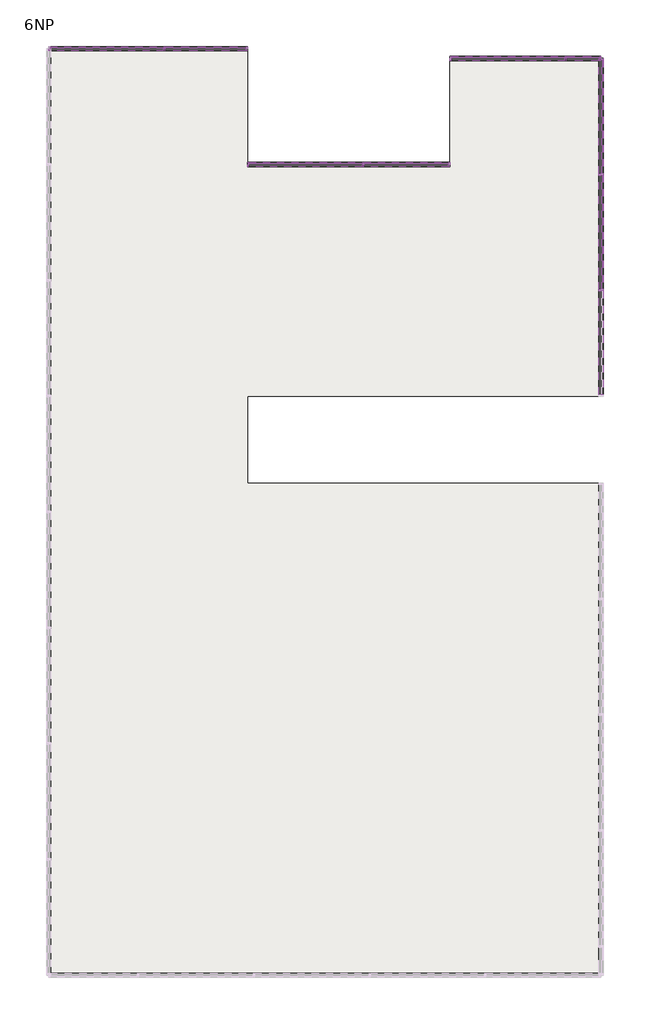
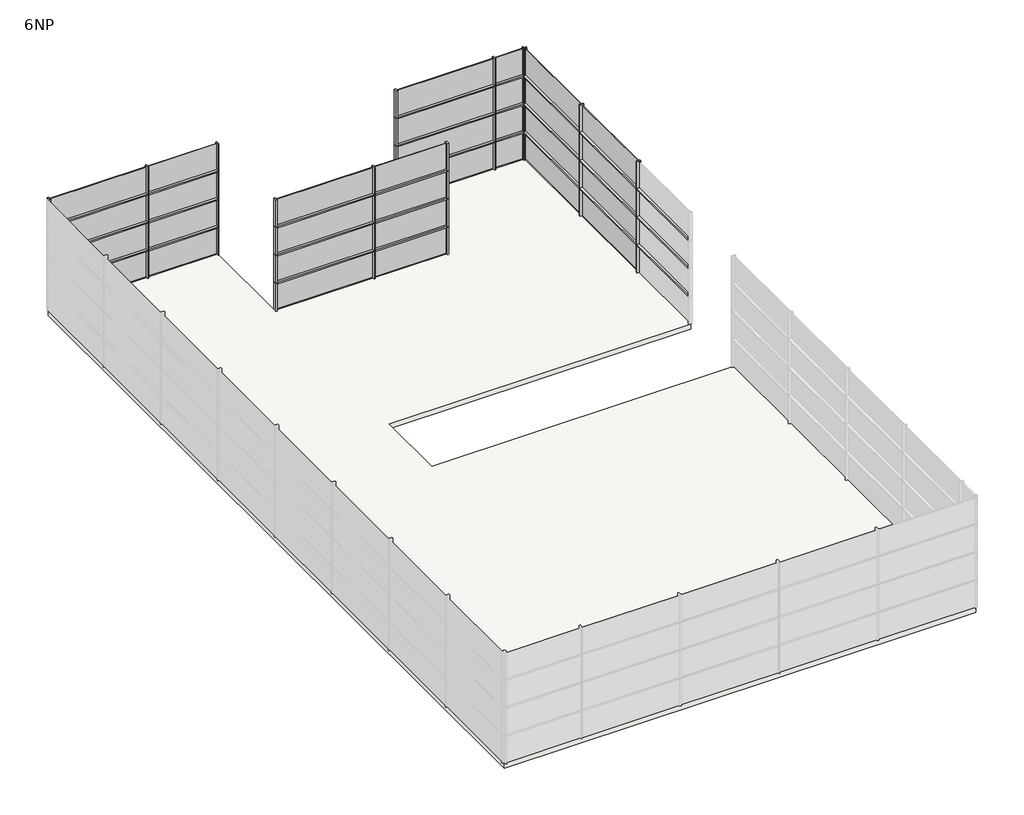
# One storey, part 3 of 3: 74 members, 32 plates, 1 slab.
"""IFC4 building model written with IfcOpenShell, lengths in millimetres."""

import ifcopenshell
import ifcopenshell.guid

model = None  # the IFC model being written
_history = None  # IfcOwnerHistory: only IFC2X3 demands one
_inside = {}  # id of a spatial element -> (the spatial element, [elements in it])
_under = {}  # id of a project, library or spatial element -> (it, [spatial elements below it])
_declared = {}  # id of a project -> (the project, [libraries it declares])
_typed = {}  # id of a type object -> (the type object, [elements of that type])
_made_of = {}  # id of a material, layer set ... -> (it, [elements and type objects made of it])


def new_model(schema):
    """Start an empty IFC model of exactly this schema.

    Asked for "IFC4X3", IfcOpenShell would pick the latest addendum, in which some entities
    have other attributes; the version numbers below select the first issue.
    IFC2X3 requires an IfcOwnerHistory on every rooted entity: one is made here for all.
    """
    global model, _history
    if schema == "IFC4X3":
        model = ifcopenshell.file(schema_version=(4, 3, 0, 0))
    else:
        model = ifcopenshell.file(schema=schema)
    _inside.clear()
    _under.clear()
    _declared.clear()
    _typed.clear()
    _made_of.clear()
    _history = None
    if model.schema == "IFC2X3":
        org = make("IfcOrganization", Name="unknown")
        user = make(
            "IfcPersonAndOrganization",
            ThePerson=make("IfcPerson", FamilyName="unknown"),
            TheOrganization=org,
        )
        app = make(
            "IfcApplication",
            ApplicationDeveloper=org,
            Version="unknown",
            ApplicationFullName="unknown",
            ApplicationIdentifier="unknown",
        )
        _history = make(
            "IfcOwnerHistory",
            OwningUser=user,
            OwningApplication=app,
            ChangeAction="ADDED",
            CreationDate=0,
        )
    return model


def make(cls, **values):
    """One entity of the class cls with the attributes given. An attribute that is None is left unset."""
    return model.create_entity(
        cls, **{name: value for name, value in values.items() if value is not None}
    )


def rooted(cls, **values):
    """An entity with a GlobalId (a new one), such as an element, a storey or a relation."""
    return make(cls, GlobalId=ifcopenshell.guid.new(), OwnerHistory=_history, **values)


def si_unit(unit_type, name, prefix=None):
    """IfcSIUnit, for example si_unit("LENGTHUNIT", "METRE", prefix="MILLI")."""
    return make("IfcSIUnit", UnitType=unit_type, Prefix=prefix, Name=name)


def assignment(units):
    """IfcUnitAssignment: the units of a project."""
    return None if units is None else make("IfcUnitAssignment", Units=units)


def point(xyz):
    """IfcCartesianPoint."""
    return None if xyz is None else make("IfcCartesianPoint", Coordinates=xyz)


def direction(xyz):
    """IfcDirection."""
    return None if xyz is None else make("IfcDirection", DirectionRatios=xyz)


def frame(location, z_axis=None, x_axis=None):
    """IfcAxis2Placement3D, a coordinate frame: its origin and axes. An axis left out is left unset."""
    return make(
        "IfcAxis2Placement3D",
        Location=point(location),
        Axis=direction(z_axis),
        RefDirection=direction(x_axis),
    )


def origin():
    """The frame at (0, 0, 0) with its axes left unset."""
    return frame((0.0, 0.0, 0.0))


def origin_with_axes():
    """The frame at (0, 0, 0) with the z axis (0, 0, 1) and the x axis (1, 0, 0) written out."""
    return frame((0.0, 0.0, 0.0), z_axis=(0.0, 0.0, 1.0), x_axis=(1.0, 0.0, 0.0))


def place(relative_to, where):
    """IfcLocalPlacement: puts the frame where relative to a parent placement (None: the world)."""
    return make(
        "IfcLocalPlacement", PlacementRelTo=relative_to, RelativePlacement=where
    )


def context(
    kind, dimensions, precision=None, world=None, true_north=None, identifier=None
):
    """IfcGeometricRepresentationContext, for example the 3D "Model" context."""
    return make(
        "IfcGeometricRepresentationContext",
        ContextIdentifier=identifier,
        ContextType=kind,
        CoordinateSpaceDimension=dimensions,
        Precision=precision,
        WorldCoordinateSystem=world,
        TrueNorth=true_north,
    )


def project(units=None, contexts=None):
    """IfcProject with its units and contexts."""
    return rooted(
        "IfcProject",
        Name="project",
        RepresentationContexts=contexts,
        UnitsInContext=assignment(units),
    )


def spatial(cls, under=None, at=None, **own):
    """A site, building, storey or space (cls), placed at a placement, below another one or the project."""
    s = rooted(cls, ObjectPlacement=at, **own)
    if under is not None:
        _under.setdefault(under.id(), (under, []))[1].append(s)
    return s


def polyline(points):
    """IfcPolyline through the points."""
    return make("IfcPolyline", Points=[point(p) for p in points])


def outline(outer, holes=None, kind="AREA"):
    """IfcArbitraryClosedProfileDef: a profile drawn as a closed curve; with holes, ...WithVoids."""
    if holes is None:
        return make("IfcArbitraryClosedProfileDef", ProfileType=kind, OuterCurve=outer)
    return make(
        "IfcArbitraryProfileDefWithVoids",
        ProfileType=kind,
        OuterCurve=outer,
        InnerCurves=holes,
    )


def extrude(swept, where, along, depth):
    """IfcExtrudedAreaSolid: the profile swept, set in the frame where, extruded along a direction by depth."""
    return make(
        "IfcExtrudedAreaSolid",
        SweptArea=swept,
        Position=where,
        ExtrudedDirection=direction(along),
        Depth=depth,
    )


def shape(context_of_items, identifier, shape_type, items):
    """IfcShapeRepresentation: the items that make up one representation, for example the "Body"."""
    return make(
        "IfcShapeRepresentation",
        ContextOfItems=context_of_items,
        RepresentationIdentifier=identifier,
        RepresentationType=shape_type,
        Items=items,
    )


def source(mapping_origin, context_of_items, identifier, shape_type, items):
    """IfcRepresentationMap: a shape defined once, which mapped items show again and again."""
    return make(
        "IfcRepresentationMap",
        MappingOrigin=mapping_origin,
        MappedRepresentation=shape(context_of_items, identifier, shape_type, items),
    )


def transform(
    local_origin,
    x_axis=None,
    y_axis=None,
    z_axis=None,
    scale=None,
    scale2=None,
    scale3=None,
    uniform=True,
):
    """IfcCartesianTransformationOperator3D, or its non-uniform kind. x_axis, y_axis, z_axis: its Axis1, 2, 3."""
    if uniform:
        return make(
            "IfcCartesianTransformationOperator3D",
            Axis1=direction(x_axis),
            Axis2=direction(y_axis),
            LocalOrigin=point(local_origin),
            Scale=scale,
            Axis3=direction(z_axis),
        )
    return make(
        "IfcCartesianTransformationOperator3DnonUniform",
        Axis1=direction(x_axis),
        Axis2=direction(y_axis),
        LocalOrigin=point(local_origin),
        Scale=scale,
        Axis3=direction(z_axis),
        Scale2=scale2,
        Scale3=scale3,
    )


def mapped(mapping_source, mapping_target):
    """IfcMappedItem: shows the shape of a source again, moved by a transform."""
    return make(
        "IfcMappedItem", MappingSource=mapping_source, MappingTarget=mapping_target
    )


def made_of(thing, what):
    """Note that an element or type object is made of a material, layer set ...; save() writes the relation."""
    if what is not None:
        _made_of.setdefault(what.id(), (what, []))[1].append(thing)
    return thing


def element(
    cls,
    number,
    at=None,
    inside=None,
    cuts=None,
    type_object=None,
    material=None,
    context=None,
    identifier="Body",
    shape_type=None,
    held_by="IfcProductDefinitionShape",
    body=None,
    shapes=None,
    **own,
):
    """One element of the class cls, such as IfcWall. Its Tag is "e" and its number.

    at: its placement. inside: the storey or other place that contains it. cuts: it is an
    opening in that element (IfcRelVoidsElement). A single representation is given by context,
    identifier, shape_type and body (its items); several are given by shapes. held_by: the class
    of the entity that holds the representations. save() writes the other relations.
    """
    e = rooted(cls, Tag="e%d" % number, ObjectPlacement=at, **own)
    if body is not None:
        shapes = [shape(context, identifier, shape_type, body)]
    if shapes is not None:
        e.Representation = make(held_by, Representations=shapes)
    if inside is not None:
        _inside.setdefault(inside.id(), (inside, []))[1].append(e)
    if cuts is not None:
        rooted(
            "IfcRelVoidsElement", RelatingBuildingElement=cuts, RelatedOpeningElement=e
        )
    if type_object is not None:
        _typed.setdefault(type_object.id(), (type_object, []))[1].append(e)
    return made_of(e, material)


def aggregate(whole, parts):
    """IfcRelAggregates: a whole, such as a stair, and the parts it consists of."""
    return rooted("IfcRelAggregates", RelatingObject=whole, RelatedObjects=parts)


def save(model, path):
    """Write the relations noted so far, then the file.

    IfcRelAggregates (storeys below a building ...), IfcRelContainedInSpatialStructure (elements
    in a storey), IfcRelDefinesByType, IfcRelAssociatesMaterial and IfcRelDeclares: one each for
    every whole, place, type object, material and project.
    """
    for whole, parts in _under.values():
        aggregate(whole, parts)
    for where, things in _inside.values():
        rooted(
            "IfcRelContainedInSpatialStructure",
            RelatedElements=things,
            RelatingStructure=where,
        )
    for kind, things in _typed.values():
        rooted("IfcRelDefinesByType", RelatedObjects=things, RelatingType=kind)
    for what, things in _made_of.values():
        rooted("IfcRelAssociatesMaterial", RelatedObjects=things, RelatingMaterial=what)
    for by, libraries in _declared.values():
        rooted("IfcRelDeclares", RelatingContext=by, RelatedDefinitions=libraries)
    model.write(path)


def rectangular_mullion_50_x_150mm_d99dc9be(model_context):
    return source(origin(), model_context, "Body", "SweptSolid", [
        extrude(outline(polyline([(25.0, 75.0), (25.0, -75.0), (-25.0, -75.0), (-25.0, 75.0), (25.0, 75.0)])), frame((0.0, 0.0, -1200.0), z_axis=(0.0, 0.0, 1.0), x_axis=(1.0, 0.0, 0.0)), (0.0, 0.0, 1.0), 1200.0),
    ])


def rectangular_mullion_50_x_150mm_6588f46c(model_context):
    return source(origin(), model_context, "Body", "SweptSolid", [
        extrude(outline(polyline([(0.0, 75.0), (0.0, -75.0), (-50.0, -75.0), (-50.0, 75.0), (0.0, 75.0)])), frame((0.0, 0.0, -1200.0), z_axis=(0.0, 0.0, 1.0), x_axis=(1.0, 0.0, 0.0)), (0.0, 0.0, 1.0), 1200.0),
    ])


def rectangular_mullion_50_x_150mm_3fe1b35e(model_context):
    return source(origin(), model_context, "Body", "SweptSolid", [
        extrude(outline(polyline([(25.0, 75.0), (25.0, -75.0), (-25.0, -75.0), (-25.0, 75.0), (25.0, 75.0)])), frame((0.0, 0.0, -3588.3715849), z_axis=(0.0, 0.0, 1.0), x_axis=(1.0, 0.0, 0.0)), (0.0, 0.0, 1.0), 3588.3715849),
    ])


def rectangular_mullion_50_x_150mm_a037c29c(model_context):
    return source(origin(), model_context, "Body", "SweptSolid", [
        extrude(outline(polyline([(25.0, 75.0), (25.0, -75.0), (-25.0, -75.0), (-25.0, 75.0), (25.0, 75.0)])), frame((0.0, 0.0, -3950.0), z_axis=(0.0, 0.0, 1.0), x_axis=(1.0, 0.0, 0.0)), (0.0, 0.0, 1.0), 3950.0),
    ])


def rectangular_mullion_50_x_150mm_c2546fd4(model_context):
    return source(origin(), model_context, "Body", "SweptSolid", [
        extrude(outline(polyline([(25.0, 75.0), (25.0, -75.0), (-25.0, -75.0), (-25.0, 75.0), (25.0, 75.0)])), frame((0.0, 0.0, -3925.0), z_axis=(0.0, 0.0, 1.0), x_axis=(1.0, 0.0, 0.0)), (0.0, 0.0, 1.0), 3925.0),
    ])


def rectangular_mullion_50_x_150mm_568dda71(model_context):
    return source(origin(), model_context, "Body", "SweptSolid", [
        extrude(outline(polyline([(25.0, 75.0), (25.0, -75.0), (-25.0, -75.0), (-25.0, 75.0), (25.0, 75.0)])), frame((0.0, 0.0, -1173.2453384), z_axis=(0.0, 0.0, 1.0), x_axis=(1.0, 0.0, 0.0)), (0.0, 0.0, 1.0), 1173.2453384),
    ])


def rectangular_mullion_50_x_150mm_268a5786(model_context):
    return source(origin(), model_context, "Body", "SweptSolid", [
        extrude(outline(polyline([(0.0, 75.0), (0.0, -75.0), (-50.0, -75.0), (-50.0, 75.0), (0.0, 75.0)])), frame((0.0, 0.0, -1173.2453384), z_axis=(0.0, 0.0, 1.0), x_axis=(1.0, 0.0, 0.0)), (0.0, 0.0, 1.0), 1173.2453384),
    ])


def rectangular_mullion_50_x_150mm_8b4cb4b7(model_context):
    return source(origin(), model_context, "Body", "SweptSolid", [
        extrude(outline(polyline([(25.0, 75.0), (25.0, -75.0), (-25.0, -75.0), (-25.0, 75.0), (25.0, 75.0)])), frame((0.0, 0.0, -2790.592625), z_axis=(0.0, 0.0, 1.0), x_axis=(1.0, 0.0, 0.0)), (0.0, 0.0, 1.0), 2790.592625),
    ])


def rectangular_mullion_50_x_150mm_185cfd49(model_context):
    return source(origin(), model_context, "Body", "SweptSolid", [
        extrude(outline(polyline([(25.0, 75.0), (25.0, -75.0), (-25.0, -75.0), (-25.0, 75.0), (25.0, 75.0)])), frame((0.0, 0.0, -2925.0), z_axis=(0.0, 0.0, 1.0), x_axis=(1.0, 0.0, 0.0)), (0.0, 0.0, 1.0), 2925.0),
    ])


def rectangular_mullion_50_x_150mm_2fe63767(model_context):
    return source(origin(), model_context, "Body", "SweptSolid", [
        extrude(outline(polyline([(25.0, 75.0), (25.0, -75.0), (-25.0, -75.0), (-25.0, 75.0), (25.0, 75.0)])), frame((0.0, 0.0, -1149.8468786), z_axis=(0.0, 0.0, 1.0), x_axis=(1.0, 0.0, 0.0)), (0.0, 0.0, 1.0), 1149.8468786),
    ])


def system_panel_glazed_8e9402eb(model_context):
    return source(origin(), model_context, "Body", "SweptSolid", [
        extrude(outline(polyline([(1962.5, 24.5), (-1962.5, 24.5), (-1962.5, 49.5), (1962.5, 49.5), (1962.5, 24.5)])), origin_with_axes(), (0.0, 0.0, 1.0), 1150.0),
    ])


def system_panel_glazed_89ac83a7(model_context):
    return source(origin(), model_context, "Body", "SweptSolid", [
        extrude(outline(polyline([(1975.0, 24.5), (-1975.0, 24.5), (-1975.0, 49.5), (1975.0, 49.5), (1975.0, 24.5)])), origin_with_axes(), (0.0, 0.0, 1.0), 1150.0),
    ])


def system_panel_glazed_cf4d7c03(model_context):
    return source(origin(), model_context, "Body", "SweptSolid", [
        extrude(outline(polyline([(1962.5, 24.5), (-1962.5, 24.5), (-1962.5, 49.5), (1962.5, 49.5), (1962.5, 24.5)])), origin_with_axes(), (0.0, 0.0, 1.0), 1098.2453384),
    ])


def system_panel_glazed_7b3729bb(model_context):
    return source(origin(), model_context, "Body", "SweptSolid", [
        extrude(outline(polyline([(1975.0, 24.5), (-1975.0, 24.5), (-1975.0, 49.5), (1975.0, 49.5), (1975.0, 24.5)])), origin_with_axes(), (0.0, 0.0, 1.0), 1098.2453384),
    ])


def system_panel_glazed_e890f31e(model_context):
    return source(origin(), model_context, "Body", "SweptSolid", [
        extrude(outline(polyline([(1395.2963125, 24.5), (-1395.2963125, 24.5), (-1395.2963125, 49.5), (1395.2963125, 49.5), (1395.2963125, 24.5)])), origin_with_axes(), (0.0, 0.0, 1.0), 1150.0),
    ])


def system_panel_glazed_569c36ed(model_context):
    return source(origin(), model_context, "Body", "SweptSolid", [
        extrude(outline(polyline([(1395.2963125, 24.5), (-1395.2963125, 24.5), (-1395.2963125, 49.5), (1395.2963125, 49.5), (1395.2963125, 24.5)])), origin_with_axes(), (0.0, 0.0, 1.0), 1098.2453384),
    ])


def system_panel_glazed_e3e91f99(model_context):
    return source(origin(), model_context, "Body", "SweptSolid", [
        extrude(outline(polyline([(1462.5, 24.5), (-1462.5, 24.5), (-1462.5, 49.5), (1462.5, 49.5), (1462.5, 24.5)])), origin_with_axes(), (0.0, 0.0, 1.0), 1150.0),
    ])


def system_panel_glazed_42406b18(model_context):
    return source(origin(), model_context, "Body", "SweptSolid", [
        extrude(outline(polyline([(1462.5, 24.5), (-1462.5, 24.5), (-1462.5, 49.5), (1462.5, 49.5), (1462.5, 24.5)])), origin_with_axes(), (0.0, 0.0, 1.0), 1098.2453384),
    ])


def system_panel_glazed_39d17f19(model_context):
    return source(origin(), model_context, "Body", "SweptSolid", [
        extrude(outline(polyline([(574.9234393, 24.5), (-574.9234393, 24.5), (-574.9234393, 49.5), (574.9234393, 49.5), (574.9234393, 24.5)])), origin_with_axes(), (0.0, 0.0, 1.0), 1150.0),
    ])


def system_panel_glazed_61ef3558(model_context):
    return source(origin(), model_context, "Body", "SweptSolid", [
        extrude(outline(polyline([(574.9234393, 24.5), (-574.9234393, 24.5), (-574.9234393, 49.5), (574.9234393, 49.5), (574.9234393, 24.5)])), origin_with_axes(), (0.0, 0.0, 1.0), 1098.2453384),
    ])


model = new_model("IFC4")

# Units and contexts
model_context = context("Model", 3, world=origin())
ifc_project = project(units=[si_unit("LENGTHUNIT", "METRE", prefix="MILLI")], contexts=[model_context])

# Site, building, storey
site = spatial("IfcSite", under=ifc_project)
building = spatial("IfcBuilding", under=site)
storey = spatial("IfcBuildingStorey", under=building, Name="6NP", Elevation=24000.0)

# Members
placement = place(None, origin())
rectangular_mullion_50_x_150mm_shape = rectangular_mullion_50_x_150mm_d99dc9be(model_context)
element("IfcMember", 1, ObjectType="Rectangular Mullion : 50 x 150mm", at=placement, inside=storey, context=model_context, shape_type="MappedRepresentation", body=[
    mapped(rectangular_mullion_50_x_150mm_shape, transform((13503.2660975, 39.3555415, 27600.0), x_axis=(0.0, -1.0, 0.0), y_axis=(1.0, 0.0, 0.0), z_axis=(0.0, 0.0, 1.0))),
])
element("IfcMember", 2, ObjectType="Rectangular Mullion : 50 x 150mm", at=placement, inside=storey, context=model_context, shape_type="MappedRepresentation", body=[
    mapped(rectangular_mullion_50_x_150mm_shape, transform((13503.2660975, 39.3555415, 26400.0), x_axis=(0.0, -1.0, 0.0), y_axis=(1.0, 0.0, 0.0), z_axis=(0.0, 0.0, 1.0))),
])
element("IfcMember", 3, ObjectType="Rectangular Mullion : 50 x 150mm", at=placement, inside=storey, context=model_context, shape_type="MappedRepresentation", body=[
    mapped(rectangular_mullion_50_x_150mm_shape, transform((13503.2660975, 39.3555415, 25200.0), x_axis=(0.0, -1.0, 0.0), y_axis=(1.0, 0.0, 0.0), z_axis=(0.0, 0.0, 1.0))),
])
element("IfcMember", 4, ObjectType="Rectangular Mullion : 50 x 150mm", at=placement, inside=storey, context=model_context, shape_type="MappedRepresentation", body=[
    mapped(rectangular_mullion_50_x_150mm_shape, transform((13503.2660975, 4039.3555415, 27600.0), x_axis=(0.0, -1.0, 0.0), y_axis=(1.0, 0.0, 0.0), z_axis=(0.0, 0.0, 1.0))),
])
element("IfcMember", 5, ObjectType="Rectangular Mullion : 50 x 150mm", at=placement, inside=storey, context=model_context, shape_type="MappedRepresentation", body=[
    mapped(rectangular_mullion_50_x_150mm_shape, transform((13503.2660975, 4039.3555415, 26400.0), x_axis=(0.0, -1.0, 0.0), y_axis=(1.0, 0.0, 0.0), z_axis=(0.0, 0.0, 1.0))),
])
element("IfcMember", 6, ObjectType="Rectangular Mullion : 50 x 150mm", at=placement, inside=storey, context=model_context, shape_type="MappedRepresentation", body=[
    mapped(rectangular_mullion_50_x_150mm_shape, transform((13503.2660975, 4039.3555415, 25200.0), x_axis=(0.0, -1.0, 0.0), y_axis=(1.0, 0.0, 0.0), z_axis=(0.0, 0.0, 1.0))),
])
element("IfcMember", 7, ObjectType="Rectangular Mullion : 50 x 150mm", at=placement, inside=storey, context=model_context, shape_type="MappedRepresentation", body=[
    mapped(rectangular_mullion_50_x_150mm_shape, transform((-1587.173406, 8375.9839566, 25200.0), x_axis=(1.0, 0.0, 0.0), y_axis=(0.0, 1.0, 0.0), z_axis=(0.0, 0.0, 1.0))),
])
element("IfcMember", 8, ObjectType="Rectangular Mullion : 50 x 150mm", at=placement, inside=storey, context=model_context, shape_type="MappedRepresentation", body=[
    mapped(rectangular_mullion_50_x_150mm_shape, transform((-1587.173406, 8375.9839566, 26400.0), x_axis=(1.0, 0.0, 0.0), y_axis=(0.0, 1.0, 0.0), z_axis=(0.0, 0.0, 1.0))),
])
element("IfcMember", 9, ObjectType="Rectangular Mullion : 50 x 150mm", at=placement, inside=storey, context=model_context, shape_type="MappedRepresentation", body=[
    mapped(rectangular_mullion_50_x_150mm_shape, transform((-1587.173406, 8375.9839566, 27600.0), x_axis=(1.0, 0.0, 0.0), y_axis=(0.0, 1.0, 0.0), z_axis=(0.0, 0.0, 1.0))),
])
element("IfcMember", 10, ObjectType="Rectangular Mullion : 50 x 150mm", at=placement, inside=storey, context=model_context, shape_type="MappedRepresentation", body=[
    mapped(rectangular_mullion_50_x_150mm_shape, transform((5278.419219, 4375.9839566, 25200.0), x_axis=(1.0, 0.0, 0.0), y_axis=(0.0, 1.0, 0.0), z_axis=(0.0, 0.0, 1.0))),
])
element("IfcMember", 11, ObjectType="Rectangular Mullion : 50 x 150mm", at=placement, inside=storey, context=model_context, shape_type="MappedRepresentation", body=[
    mapped(rectangular_mullion_50_x_150mm_shape, transform((5278.419219, 4375.9839566, 26400.0), x_axis=(1.0, 0.0, 0.0), y_axis=(0.0, 1.0, 0.0), z_axis=(0.0, 0.0, 1.0))),
])
element("IfcMember", 12, ObjectType="Rectangular Mullion : 50 x 150mm", at=placement, inside=storey, context=model_context, shape_type="MappedRepresentation", body=[
    mapped(rectangular_mullion_50_x_150mm_shape, transform((5278.419219, 4375.9839566, 27600.0), x_axis=(1.0, 0.0, 0.0), y_axis=(0.0, 1.0, 0.0), z_axis=(0.0, 0.0, 1.0))),
])
element("IfcMember", 13, ObjectType="Rectangular Mullion : 50 x 150mm", at=placement, inside=storey, context=model_context, shape_type="MappedRepresentation", body=[
    mapped(rectangular_mullion_50_x_150mm_shape, transform((12278.419219, 8039.3555415, 25200.0), x_axis=(1.0, 0.0, 0.0), y_axis=(0.0, 1.0, 0.0), z_axis=(0.0, 0.0, 1.0))),
])
element("IfcMember", 14, ObjectType="Rectangular Mullion : 50 x 150mm", at=placement, inside=storey, context=model_context, shape_type="MappedRepresentation", body=[
    mapped(rectangular_mullion_50_x_150mm_shape, transform((12278.419219, 8039.3555415, 26400.0), x_axis=(1.0, 0.0, 0.0), y_axis=(0.0, 1.0, 0.0), z_axis=(0.0, 0.0, 1.0))),
])
element("IfcMember", 15, ObjectType="Rectangular Mullion : 50 x 150mm", at=placement, inside=storey, context=model_context, shape_type="MappedRepresentation", body=[
    mapped(rectangular_mullion_50_x_150mm_shape, transform((12278.419219, 8039.3555415, 27600.0), x_axis=(1.0, 0.0, 0.0), y_axis=(0.0, 1.0, 0.0), z_axis=(0.0, 0.0, 1.0))),
])
rectangular_mullion_50_x_150mm_2_shape = rectangular_mullion_50_x_150mm_6588f46c(model_context)
element("IfcMember", 16, ObjectType="Rectangular Mullion : 50 x 150mm", at=placement, inside=storey, context=model_context, shape_type="MappedRepresentation", body=[
    mapped(rectangular_mullion_50_x_150mm_2_shape, transform((1278.419219, 8375.9839566, 25200.0), x_axis=(1.0, 0.0, 0.0), y_axis=(0.0, 1.0, 0.0), z_axis=(0.0, 0.0, 1.0))),
])
element("IfcMember", 17, ObjectType="Rectangular Mullion : 50 x 150mm", at=placement, inside=storey, context=model_context, shape_type="MappedRepresentation", body=[
    mapped(rectangular_mullion_50_x_150mm_2_shape, transform((1278.419219, 8375.9839566, 26400.0), x_axis=(1.0, 0.0, 0.0), y_axis=(0.0, 1.0, 0.0), z_axis=(0.0, 0.0, 1.0))),
])
element("IfcMember", 18, ObjectType="Rectangular Mullion : 50 x 150mm", at=placement, inside=storey, context=model_context, shape_type="MappedRepresentation", body=[
    mapped(rectangular_mullion_50_x_150mm_2_shape, transform((1278.419219, 8375.9839566, 27600.0), x_axis=(1.0, 0.0, 0.0), y_axis=(0.0, 1.0, 0.0), z_axis=(0.0, 0.0, 1.0))),
])
element("IfcMember", 19, ObjectType="Rectangular Mullion : 50 x 150mm", at=placement, inside=storey, context=model_context, shape_type="MappedRepresentation", body=[
    mapped(rectangular_mullion_50_x_150mm_2_shape, transform((8278.419219, 4375.9839566, 25200.0), x_axis=(1.0, 0.0, 0.0), y_axis=(0.0, 1.0, 0.0), z_axis=(0.0, 0.0, 1.0))),
])
element("IfcMember", 20, ObjectType="Rectangular Mullion : 50 x 150mm", at=placement, inside=storey, context=model_context, shape_type="MappedRepresentation", body=[
    mapped(rectangular_mullion_50_x_150mm_2_shape, transform((8278.419219, 4375.9839566, 26400.0), x_axis=(1.0, 0.0, 0.0), y_axis=(0.0, 1.0, 0.0), z_axis=(0.0, 0.0, 1.0))),
])
element("IfcMember", 21, ObjectType="Rectangular Mullion : 50 x 150mm", at=placement, inside=storey, context=model_context, shape_type="MappedRepresentation", body=[
    mapped(rectangular_mullion_50_x_150mm_2_shape, transform((8278.419219, 4375.9839566, 27600.0), x_axis=(1.0, 0.0, 0.0), y_axis=(0.0, 1.0, 0.0), z_axis=(0.0, 0.0, 1.0))),
])
element("IfcMember", 22, ObjectType="Rectangular Mullion : 50 x 150mm", at=placement, inside=storey, context=model_context, shape_type="MappedRepresentation", body=[
    mapped(rectangular_mullion_50_x_150mm_2_shape, transform((13503.2660975, 8039.3555415, 25200.0), x_axis=(1.0, 0.0, 0.0), y_axis=(0.0, 1.0, 0.0), z_axis=(0.0, 0.0, 1.0))),
])
element("IfcMember", 23, ObjectType="Rectangular Mullion : 50 x 150mm", at=placement, inside=storey, context=model_context, shape_type="MappedRepresentation", body=[
    mapped(rectangular_mullion_50_x_150mm_2_shape, transform((13503.2660975, 8039.3555415, 26400.0), x_axis=(1.0, 0.0, 0.0), y_axis=(0.0, 1.0, 0.0), z_axis=(0.0, 0.0, 1.0))),
])
element("IfcMember", 24, ObjectType="Rectangular Mullion : 50 x 150mm", at=placement, inside=storey, context=model_context, shape_type="MappedRepresentation", body=[
    mapped(rectangular_mullion_50_x_150mm_2_shape, transform((13503.2660975, 8039.3555415, 27600.0), x_axis=(1.0, 0.0, 0.0), y_axis=(0.0, 1.0, 0.0), z_axis=(0.0, 0.0, 1.0))),
])
rectangular_mullion_50_x_150mm_3_shape = rectangular_mullion_50_x_150mm_3fe1b35e(model_context)
element("IfcMember", 25, ObjectType="Rectangular Mullion : 50 x 150mm", at=placement, inside=storey, context=model_context, shape_type="MappedRepresentation", body=[
    mapped(rectangular_mullion_50_x_150mm_3_shape, transform((13503.2660975, 14.3555415, 27600.0), x_axis=(0.0, 0.0, 1.0), y_axis=(1.0, 0.0, 0.0), z_axis=(0.0, 1.0, 0.0))),
])
element("IfcMember", 26, ObjectType="Rectangular Mullion : 50 x 150mm", at=placement, inside=storey, context=model_context, shape_type="MappedRepresentation", body=[
    mapped(rectangular_mullion_50_x_150mm_3_shape, transform((13503.2660975, 14.3555415, 26400.0), x_axis=(0.0, 0.0, 1.0), y_axis=(1.0, 0.0, 0.0), z_axis=(0.0, 1.0, 0.0))),
])
element("IfcMember", 27, ObjectType="Rectangular Mullion : 50 x 150mm", at=placement, inside=storey, context=model_context, shape_type="MappedRepresentation", body=[
    mapped(rectangular_mullion_50_x_150mm_3_shape, transform((13503.2660975, 14.3555415, 25200.0), x_axis=(0.0, 0.0, 1.0), y_axis=(1.0, 0.0, 0.0), z_axis=(0.0, 1.0, 0.0))),
])
rectangular_mullion_50_x_150mm_4_shape = rectangular_mullion_50_x_150mm_a037c29c(model_context)
element("IfcMember", 28, ObjectType="Rectangular Mullion : 50 x 150mm", at=placement, inside=storey, context=model_context, shape_type="MappedRepresentation", body=[
    mapped(rectangular_mullion_50_x_150mm_4_shape, transform((13503.2660975, 4014.3555415, 27600.0), x_axis=(0.0, 0.0, 1.0), y_axis=(1.0, 0.0, 0.0), z_axis=(0.0, 1.0, 0.0))),
])
element("IfcMember", 29, ObjectType="Rectangular Mullion : 50 x 150mm", at=placement, inside=storey, context=model_context, shape_type="MappedRepresentation", body=[
    mapped(rectangular_mullion_50_x_150mm_4_shape, transform((13503.2660975, 4014.3555415, 26400.0), x_axis=(0.0, 0.0, 1.0), y_axis=(1.0, 0.0, 0.0), z_axis=(0.0, 1.0, 0.0))),
])
element("IfcMember", 30, ObjectType="Rectangular Mullion : 50 x 150mm", at=placement, inside=storey, context=model_context, shape_type="MappedRepresentation", body=[
    mapped(rectangular_mullion_50_x_150mm_4_shape, transform((13503.2660975, 4014.3555415, 25200.0), x_axis=(0.0, 0.0, 1.0), y_axis=(1.0, 0.0, 0.0), z_axis=(0.0, 1.0, 0.0))),
])
rectangular_mullion_50_x_150mm_5_shape = rectangular_mullion_50_x_150mm_c2546fd4(model_context)
element("IfcMember", 31, ObjectType="Rectangular Mullion : 50 x 150mm", at=placement, inside=storey, context=model_context, shape_type="MappedRepresentation", body=[
    mapped(rectangular_mullion_50_x_150mm_5_shape, transform((13503.2660975, 7989.3555415, 27600.0), x_axis=(0.0, 0.0, 1.0), y_axis=(1.0, 0.0, 0.0), z_axis=(0.0, 1.0, 0.0))),
])
element("IfcMember", 32, ObjectType="Rectangular Mullion : 50 x 150mm", at=placement, inside=storey, context=model_context, shape_type="MappedRepresentation", body=[
    mapped(rectangular_mullion_50_x_150mm_5_shape, transform((13503.2660975, 7989.3555415, 26400.0), x_axis=(0.0, 0.0, 1.0), y_axis=(1.0, 0.0, 0.0), z_axis=(0.0, 1.0, 0.0))),
])
element("IfcMember", 33, ObjectType="Rectangular Mullion : 50 x 150mm", at=placement, inside=storey, context=model_context, shape_type="MappedRepresentation", body=[
    mapped(rectangular_mullion_50_x_150mm_5_shape, transform((13503.2660975, 7989.3555415, 25200.0), x_axis=(0.0, 0.0, 1.0), y_axis=(1.0, 0.0, 0.0), z_axis=(0.0, 1.0, 0.0))),
])
element("IfcMember", 34, ObjectType="Rectangular Mullion : 50 x 150mm", at=placement, inside=storey, context=model_context, shape_type="MappedRepresentation", body=[
    mapped(rectangular_mullion_50_x_150mm_5_shape, transform((-5537.173406, 8375.9839566, 25200.0), x_axis=(0.0, 0.0, 1.0), y_axis=(0.0, 1.0, 0.0), z_axis=(-1.0, 0.0, 0.0))),
])
element("IfcMember", 35, ObjectType="Rectangular Mullion : 50 x 150mm", at=placement, inside=storey, context=model_context, shape_type="MappedRepresentation", body=[
    mapped(rectangular_mullion_50_x_150mm_5_shape, transform((-5537.173406, 8375.9839566, 26400.0), x_axis=(0.0, 0.0, 1.0), y_axis=(0.0, 1.0, 0.0), z_axis=(-1.0, 0.0, 0.0))),
])
element("IfcMember", 36, ObjectType="Rectangular Mullion : 50 x 150mm", at=placement, inside=storey, context=model_context, shape_type="MappedRepresentation", body=[
    mapped(rectangular_mullion_50_x_150mm_5_shape, transform((-5537.173406, 8375.9839566, 27600.0), x_axis=(0.0, 0.0, 1.0), y_axis=(0.0, 1.0, 0.0), z_axis=(-1.0, 0.0, 0.0))),
])
element("IfcMember", 37, ObjectType="Rectangular Mullion : 50 x 150mm", at=placement, inside=storey, context=model_context, shape_type="MappedRepresentation", body=[
    mapped(rectangular_mullion_50_x_150mm_5_shape, transform((1328.419219, 4375.9839566, 25200.0), x_axis=(0.0, 0.0, 1.0), y_axis=(0.0, 1.0, 0.0), z_axis=(-1.0, 0.0, 0.0))),
])
element("IfcMember", 38, ObjectType="Rectangular Mullion : 50 x 150mm", at=placement, inside=storey, context=model_context, shape_type="MappedRepresentation", body=[
    mapped(rectangular_mullion_50_x_150mm_5_shape, transform((1328.419219, 4375.9839566, 26400.0), x_axis=(0.0, 0.0, 1.0), y_axis=(0.0, 1.0, 0.0), z_axis=(-1.0, 0.0, 0.0))),
])
element("IfcMember", 39, ObjectType="Rectangular Mullion : 50 x 150mm", at=placement, inside=storey, context=model_context, shape_type="MappedRepresentation", body=[
    mapped(rectangular_mullion_50_x_150mm_5_shape, transform((1328.419219, 4375.9839566, 27600.0), x_axis=(0.0, 0.0, 1.0), y_axis=(0.0, 1.0, 0.0), z_axis=(-1.0, 0.0, 0.0))),
])
element("IfcMember", 40, ObjectType="Rectangular Mullion : 50 x 150mm", at=placement, inside=storey, context=model_context, shape_type="MappedRepresentation", body=[
    mapped(rectangular_mullion_50_x_150mm_5_shape, transform((8328.419219, 8039.3555415, 25200.0), x_axis=(0.0, 0.0, 1.0), y_axis=(0.0, 1.0, 0.0), z_axis=(-1.0, 0.0, 0.0))),
])
element("IfcMember", 41, ObjectType="Rectangular Mullion : 50 x 150mm", at=placement, inside=storey, context=model_context, shape_type="MappedRepresentation", body=[
    mapped(rectangular_mullion_50_x_150mm_5_shape, transform((8328.419219, 8039.3555415, 26400.0), x_axis=(0.0, 0.0, 1.0), y_axis=(0.0, 1.0, 0.0), z_axis=(-1.0, 0.0, 0.0))),
])
element("IfcMember", 42, ObjectType="Rectangular Mullion : 50 x 150mm", at=placement, inside=storey, context=model_context, shape_type="MappedRepresentation", body=[
    mapped(rectangular_mullion_50_x_150mm_5_shape, transform((8328.419219, 8039.3555415, 27600.0), x_axis=(0.0, 0.0, 1.0), y_axis=(0.0, 1.0, 0.0), z_axis=(-1.0, 0.0, 0.0))),
])
rectangular_mullion_50_x_150mm_6_shape = rectangular_mullion_50_x_150mm_568dda71(model_context)
element("IfcMember", 43, ObjectType="Rectangular Mullion : 50 x 150mm", at=placement, inside=storey, context=model_context, shape_type="MappedRepresentation", body=[
    mapped(rectangular_mullion_50_x_150mm_6_shape, transform((13503.2660975, 39.3555415, 28773.2453384), x_axis=(0.0, -1.0, 0.0), y_axis=(1.0, 0.0, 0.0), z_axis=(0.0, 0.0, 1.0))),
])
element("IfcMember", 44, ObjectType="Rectangular Mullion : 50 x 150mm", at=placement, inside=storey, context=model_context, shape_type="MappedRepresentation", body=[
    mapped(rectangular_mullion_50_x_150mm_6_shape, transform((13503.2660975, 4039.3555415, 28773.2453384), x_axis=(0.0, -1.0, 0.0), y_axis=(1.0, 0.0, 0.0), z_axis=(0.0, 0.0, 1.0))),
])
element("IfcMember", 45, ObjectType="Rectangular Mullion : 50 x 150mm", at=placement, inside=storey, context=model_context, shape_type="MappedRepresentation", body=[
    mapped(rectangular_mullion_50_x_150mm_6_shape, transform((-1587.173406, 8375.9839566, 28773.2453384), x_axis=(1.0, 0.0, 0.0), y_axis=(0.0, 1.0, 0.0), z_axis=(0.0, 0.0, 1.0))),
])
element("IfcMember", 46, ObjectType="Rectangular Mullion : 50 x 150mm", at=placement, inside=storey, context=model_context, shape_type="MappedRepresentation", body=[
    mapped(rectangular_mullion_50_x_150mm_6_shape, transform((5278.419219, 4375.9839566, 28773.2453384), x_axis=(1.0, 0.0, 0.0), y_axis=(0.0, 1.0, 0.0), z_axis=(0.0, 0.0, 1.0))),
])
element("IfcMember", 47, ObjectType="Rectangular Mullion : 50 x 150mm", at=placement, inside=storey, context=model_context, shape_type="MappedRepresentation", body=[
    mapped(rectangular_mullion_50_x_150mm_6_shape, transform((12278.419219, 8039.3555415, 28773.2453384), x_axis=(1.0, 0.0, 0.0), y_axis=(0.0, 1.0, 0.0), z_axis=(0.0, 0.0, 1.0))),
])
rectangular_mullion_50_x_150mm_7_shape = rectangular_mullion_50_x_150mm_268a5786(model_context)
element("IfcMember", 48, ObjectType="Rectangular Mullion : 50 x 150mm", at=placement, inside=storey, context=model_context, shape_type="MappedRepresentation", body=[
    mapped(rectangular_mullion_50_x_150mm_7_shape, transform((1278.419219, 8375.9839566, 28773.2453384), x_axis=(1.0, 0.0, 0.0), y_axis=(0.0, 1.0, 0.0), z_axis=(0.0, 0.0, 1.0))),
])
element("IfcMember", 49, ObjectType="Rectangular Mullion : 50 x 150mm", at=placement, inside=storey, context=model_context, shape_type="MappedRepresentation", body=[
    mapped(rectangular_mullion_50_x_150mm_7_shape, transform((8278.419219, 4375.9839566, 28773.2453384), x_axis=(1.0, 0.0, 0.0), y_axis=(0.0, 1.0, 0.0), z_axis=(0.0, 0.0, 1.0))),
])
element("IfcMember", 50, ObjectType="Rectangular Mullion : 50 x 150mm", at=placement, inside=storey, context=model_context, shape_type="MappedRepresentation", body=[
    mapped(rectangular_mullion_50_x_150mm_7_shape, transform((13503.2660975, 8039.3555415, 28773.2453384), x_axis=(1.0, 0.0, 0.0), y_axis=(0.0, 1.0, 0.0), z_axis=(0.0, 0.0, 1.0))),
])
element("IfcMember", 51, ObjectType="Rectangular Mullion : 50 x 150mm", at=placement, inside=storey, context=model_context, shape_type="MappedRepresentation", body=[
    mapped(rectangular_mullion_50_x_150mm_7_shape, transform((13503.2660975, 8039.3555415, 27600.0), x_axis=(0.0, 1.0, 0.0), y_axis=(1.0, 0.0, 0.0), z_axis=(0.0, 0.0, -1.0))),
])
element("IfcMember", 52, ObjectType="Rectangular Mullion : 50 x 150mm", at=placement, inside=storey, context=model_context, shape_type="MappedRepresentation", body=[
    mapped(rectangular_mullion_50_x_150mm_7_shape, transform((-5587.173406, 8375.9839566, 27600.0), x_axis=(-1.0, 0.0, 0.0), y_axis=(0.0, 1.0, 0.0), z_axis=(0.0, 0.0, -1.0))),
])
element("IfcMember", 53, ObjectType="Rectangular Mullion : 50 x 150mm", at=placement, inside=storey, context=model_context, shape_type="MappedRepresentation", body=[
    mapped(rectangular_mullion_50_x_150mm_7_shape, transform((1278.419219, 4375.9839566, 27600.0), x_axis=(-1.0, 0.0, 0.0), y_axis=(0.0, 1.0, 0.0), z_axis=(0.0, 0.0, -1.0))),
])
element("IfcMember", 54, ObjectType="Rectangular Mullion : 50 x 150mm", at=placement, inside=storey, context=model_context, shape_type="MappedRepresentation", body=[
    mapped(rectangular_mullion_50_x_150mm_7_shape, transform((8278.419219, 8039.3555415, 27600.0), x_axis=(-1.0, 0.0, 0.0), y_axis=(0.0, 1.0, 0.0), z_axis=(0.0, 0.0, -1.0))),
])
element("IfcMember", 55, ObjectType="Rectangular Mullion : 50 x 150mm", at=placement, inside=storey, context=model_context, shape_type="MappedRepresentation", body=[
    mapped(rectangular_mullion_50_x_150mm_2_shape, transform((13503.2660975, 8039.3555415, 26400.0), x_axis=(0.0, 1.0, 0.0), y_axis=(1.0, 0.0, 0.0), z_axis=(0.0, 0.0, -1.0))),
])
element("IfcMember", 56, ObjectType="Rectangular Mullion : 50 x 150mm", at=placement, inside=storey, context=model_context, shape_type="MappedRepresentation", body=[
    mapped(rectangular_mullion_50_x_150mm_2_shape, transform((13503.2660975, 8039.3555415, 25200.0), x_axis=(0.0, 1.0, 0.0), y_axis=(1.0, 0.0, 0.0), z_axis=(0.0, 0.0, -1.0))),
])
element("IfcMember", 57, ObjectType="Rectangular Mullion : 50 x 150mm", at=placement, inside=storey, context=model_context, shape_type="MappedRepresentation", body=[
    mapped(rectangular_mullion_50_x_150mm_2_shape, transform((13503.2660975, 8039.3555415, 24000.0), x_axis=(0.0, 1.0, 0.0), y_axis=(1.0, 0.0, 0.0), z_axis=(0.0, 0.0, -1.0))),
])
element("IfcMember", 58, ObjectType="Rectangular Mullion : 50 x 150mm", at=placement, inside=storey, context=model_context, shape_type="MappedRepresentation", body=[
    mapped(rectangular_mullion_50_x_150mm_2_shape, transform((-5587.173406, 8375.9839566, 25200.0), x_axis=(-1.0, 0.0, 0.0), y_axis=(0.0, 1.0, 0.0), z_axis=(0.0, 0.0, -1.0))),
])
element("IfcMember", 59, ObjectType="Rectangular Mullion : 50 x 150mm", at=placement, inside=storey, context=model_context, shape_type="MappedRepresentation", body=[
    mapped(rectangular_mullion_50_x_150mm_2_shape, transform((-5587.173406, 8375.9839566, 26400.0), x_axis=(-1.0, 0.0, 0.0), y_axis=(0.0, 1.0, 0.0), z_axis=(0.0, 0.0, -1.0))),
])
element("IfcMember", 60, ObjectType="Rectangular Mullion : 50 x 150mm", at=placement, inside=storey, context=model_context, shape_type="MappedRepresentation", body=[
    mapped(rectangular_mullion_50_x_150mm_2_shape, transform((1278.419219, 4375.9839566, 24000.0), x_axis=(-1.0, 0.0, 0.0), y_axis=(0.0, 1.0, 0.0), z_axis=(0.0, 0.0, -1.0))),
])
element("IfcMember", 61, ObjectType="Rectangular Mullion : 50 x 150mm", at=placement, inside=storey, context=model_context, shape_type="MappedRepresentation", body=[
    mapped(rectangular_mullion_50_x_150mm_2_shape, transform((1278.419219, 4375.9839566, 25200.0), x_axis=(-1.0, 0.0, 0.0), y_axis=(0.0, 1.0, 0.0), z_axis=(0.0, 0.0, -1.0))),
])
element("IfcMember", 62, ObjectType="Rectangular Mullion : 50 x 150mm", at=placement, inside=storey, context=model_context, shape_type="MappedRepresentation", body=[
    mapped(rectangular_mullion_50_x_150mm_2_shape, transform((1278.419219, 4375.9839566, 26400.0), x_axis=(-1.0, 0.0, 0.0), y_axis=(0.0, 1.0, 0.0), z_axis=(0.0, 0.0, -1.0))),
])
element("IfcMember", 63, ObjectType="Rectangular Mullion : 50 x 150mm", at=placement, inside=storey, context=model_context, shape_type="MappedRepresentation", body=[
    mapped(rectangular_mullion_50_x_150mm_2_shape, transform((8278.419219, 8039.3555415, 24000.0), x_axis=(-1.0, 0.0, 0.0), y_axis=(0.0, 1.0, 0.0), z_axis=(0.0, 0.0, -1.0))),
])
element("IfcMember", 64, ObjectType="Rectangular Mullion : 50 x 150mm", at=placement, inside=storey, context=model_context, shape_type="MappedRepresentation", body=[
    mapped(rectangular_mullion_50_x_150mm_2_shape, transform((8278.419219, 8039.3555415, 25200.0), x_axis=(-1.0, 0.0, 0.0), y_axis=(0.0, 1.0, 0.0), z_axis=(0.0, 0.0, -1.0))),
])
element("IfcMember", 65, ObjectType="Rectangular Mullion : 50 x 150mm", at=placement, inside=storey, context=model_context, shape_type="MappedRepresentation", body=[
    mapped(rectangular_mullion_50_x_150mm_2_shape, transform((8278.419219, 8039.3555415, 26400.0), x_axis=(-1.0, 0.0, 0.0), y_axis=(0.0, 1.0, 0.0), z_axis=(0.0, 0.0, -1.0))),
])
rectangular_mullion_50_x_150mm_8_shape = rectangular_mullion_50_x_150mm_8b4cb4b7(model_context)
element("IfcMember", 66, ObjectType="Rectangular Mullion : 50 x 150mm", at=placement, inside=storey, context=model_context, shape_type="MappedRepresentation", body=[
    mapped(rectangular_mullion_50_x_150mm_8_shape, transform((-1562.173406, 8375.9839566, 25200.0), x_axis=(0.0, 0.0, 1.0), y_axis=(0.0, 1.0, 0.0), z_axis=(-1.0, 0.0, 0.0))),
])
element("IfcMember", 67, ObjectType="Rectangular Mullion : 50 x 150mm", at=placement, inside=storey, context=model_context, shape_type="MappedRepresentation", body=[
    mapped(rectangular_mullion_50_x_150mm_8_shape, transform((-1562.173406, 8375.9839566, 26400.0), x_axis=(0.0, 0.0, 1.0), y_axis=(0.0, 1.0, 0.0), z_axis=(-1.0, 0.0, 0.0))),
])
element("IfcMember", 68, ObjectType="Rectangular Mullion : 50 x 150mm", at=placement, inside=storey, context=model_context, shape_type="MappedRepresentation", body=[
    mapped(rectangular_mullion_50_x_150mm_8_shape, transform((-1562.173406, 8375.9839566, 27600.0), x_axis=(0.0, 0.0, 1.0), y_axis=(0.0, 1.0, 0.0), z_axis=(-1.0, 0.0, 0.0))),
])
rectangular_mullion_50_x_150mm_9_shape = rectangular_mullion_50_x_150mm_185cfd49(model_context)
element("IfcMember", 69, ObjectType="Rectangular Mullion : 50 x 150mm", at=placement, inside=storey, context=model_context, shape_type="MappedRepresentation", body=[
    mapped(rectangular_mullion_50_x_150mm_9_shape, transform((5303.419219, 4375.9839566, 25200.0), x_axis=(0.0, 0.0, 1.0), y_axis=(0.0, 1.0, 0.0), z_axis=(-1.0, 0.0, 0.0))),
])
element("IfcMember", 70, ObjectType="Rectangular Mullion : 50 x 150mm", at=placement, inside=storey, context=model_context, shape_type="MappedRepresentation", body=[
    mapped(rectangular_mullion_50_x_150mm_9_shape, transform((5303.419219, 4375.9839566, 26400.0), x_axis=(0.0, 0.0, 1.0), y_axis=(0.0, 1.0, 0.0), z_axis=(-1.0, 0.0, 0.0))),
])
element("IfcMember", 71, ObjectType="Rectangular Mullion : 50 x 150mm", at=placement, inside=storey, context=model_context, shape_type="MappedRepresentation", body=[
    mapped(rectangular_mullion_50_x_150mm_9_shape, transform((5303.419219, 4375.9839566, 27600.0), x_axis=(0.0, 0.0, 1.0), y_axis=(0.0, 1.0, 0.0), z_axis=(-1.0, 0.0, 0.0))),
])
rectangular_mullion_50_x_150mm_10_shape = rectangular_mullion_50_x_150mm_2fe63767(model_context)
element("IfcMember", 72, ObjectType="Rectangular Mullion : 50 x 150mm", at=placement, inside=storey, context=model_context, shape_type="MappedRepresentation", body=[
    mapped(rectangular_mullion_50_x_150mm_10_shape, transform((12303.419219, 8039.3555415, 25200.0), x_axis=(0.0, 0.0, 1.0), y_axis=(0.0, 1.0, 0.0), z_axis=(-1.0, 0.0, 0.0))),
])
element("IfcMember", 73, ObjectType="Rectangular Mullion : 50 x 150mm", at=placement, inside=storey, context=model_context, shape_type="MappedRepresentation", body=[
    mapped(rectangular_mullion_50_x_150mm_10_shape, transform((12303.419219, 8039.3555415, 26400.0), x_axis=(0.0, 0.0, 1.0), y_axis=(0.0, 1.0, 0.0), z_axis=(-1.0, 0.0, 0.0))),
])
element("IfcMember", 74, ObjectType="Rectangular Mullion : 50 x 150mm", at=placement, inside=storey, context=model_context, shape_type="MappedRepresentation", body=[
    mapped(rectangular_mullion_50_x_150mm_10_shape, transform((12303.419219, 8039.3555415, 27600.0), x_axis=(0.0, 0.0, 1.0), y_axis=(0.0, 1.0, 0.0), z_axis=(-1.0, 0.0, 0.0))),
])

# Plates
system_panel_glazed_shape = system_panel_glazed_8e9402eb(model_context)
element("IfcPlate", 75, ObjectType="System Panel : Glazed", at=placement, inside=storey, context=model_context, shape_type="MappedRepresentation", body=[
    mapped(system_panel_glazed_shape, transform((13503.2660975, 6026.8555415, 24025.0), x_axis=(0.0, -1.0, 0.0), y_axis=(1.0, 0.0, 0.0), z_axis=(0.0, 0.0, 1.0))),
])
element("IfcPlate", 76, ObjectType="System Panel : Glazed", at=placement, inside=storey, context=model_context, shape_type="MappedRepresentation", body=[
    mapped(system_panel_glazed_shape, transform((13503.2660975, 6026.8555415, 25225.0), x_axis=(0.0, -1.0, 0.0), y_axis=(1.0, 0.0, 0.0), z_axis=(0.0, 0.0, 1.0))),
])
element("IfcPlate", 77, ObjectType="System Panel : Glazed", at=placement, inside=storey, context=model_context, shape_type="MappedRepresentation", body=[
    mapped(system_panel_glazed_shape, transform((13503.2660975, 6026.8555415, 26425.0), x_axis=(0.0, -1.0, 0.0), y_axis=(1.0, 0.0, 0.0), z_axis=(0.0, 0.0, 1.0))),
])
element("IfcPlate", 78, ObjectType="System Panel : Glazed", at=placement, inside=storey, context=model_context, shape_type="MappedRepresentation", body=[
    mapped(system_panel_glazed_shape, transform((10290.919219, 8039.3555415, 24025.0), x_axis=(1.0, 0.0, 0.0), y_axis=(0.0, 1.0, 0.0), z_axis=(0.0, 0.0, 1.0))),
])
element("IfcPlate", 79, ObjectType="System Panel : Glazed", at=placement, inside=storey, context=model_context, shape_type="MappedRepresentation", body=[
    mapped(system_panel_glazed_shape, transform((10290.919219, 8039.3555415, 25225.0), x_axis=(1.0, 0.0, 0.0), y_axis=(0.0, 1.0, 0.0), z_axis=(0.0, 0.0, 1.0))),
])
element("IfcPlate", 80, ObjectType="System Panel : Glazed", at=placement, inside=storey, context=model_context, shape_type="MappedRepresentation", body=[
    mapped(system_panel_glazed_shape, transform((10290.919219, 8039.3555415, 26425.0), x_axis=(1.0, 0.0, 0.0), y_axis=(0.0, 1.0, 0.0), z_axis=(0.0, 0.0, 1.0))),
])
element("IfcPlate", 81, ObjectType="System Panel : Glazed", at=placement, inside=storey, context=model_context, shape_type="MappedRepresentation", body=[
    mapped(system_panel_glazed_shape, transform((3290.919219, 4375.9839566, 24025.0), x_axis=(1.0, 0.0, 0.0), y_axis=(0.0, 1.0, 0.0), z_axis=(0.0, 0.0, 1.0))),
])
element("IfcPlate", 82, ObjectType="System Panel : Glazed", at=placement, inside=storey, context=model_context, shape_type="MappedRepresentation", body=[
    mapped(system_panel_glazed_shape, transform((3290.919219, 4375.9839566, 25225.0), x_axis=(1.0, 0.0, 0.0), y_axis=(0.0, 1.0, 0.0), z_axis=(0.0, 0.0, 1.0))),
])
element("IfcPlate", 83, ObjectType="System Panel : Glazed", at=placement, inside=storey, context=model_context, shape_type="MappedRepresentation", body=[
    mapped(system_panel_glazed_shape, transform((3290.919219, 4375.9839566, 26425.0), x_axis=(1.0, 0.0, 0.0), y_axis=(0.0, 1.0, 0.0), z_axis=(0.0, 0.0, 1.0))),
])
element("IfcPlate", 84, ObjectType="System Panel : Glazed", at=placement, inside=storey, context=model_context, shape_type="MappedRepresentation", body=[
    mapped(system_panel_glazed_shape, transform((-3574.673406, 8375.9839566, 24025.0), x_axis=(1.0, 0.0, 0.0), y_axis=(0.0, 1.0, 0.0), z_axis=(0.0, 0.0, 1.0))),
])
element("IfcPlate", 85, ObjectType="System Panel : Glazed", at=placement, inside=storey, context=model_context, shape_type="MappedRepresentation", body=[
    mapped(system_panel_glazed_shape, transform((-3574.673406, 8375.9839566, 25225.0), x_axis=(1.0, 0.0, 0.0), y_axis=(0.0, 1.0, 0.0), z_axis=(0.0, 0.0, 1.0))),
])
element("IfcPlate", 86, ObjectType="System Panel : Glazed", at=placement, inside=storey, context=model_context, shape_type="MappedRepresentation", body=[
    mapped(system_panel_glazed_shape, transform((-3574.673406, 8375.9839566, 26425.0), x_axis=(1.0, 0.0, 0.0), y_axis=(0.0, 1.0, 0.0), z_axis=(0.0, 0.0, 1.0))),
])
system_panel_glazed_2_shape = system_panel_glazed_89ac83a7(model_context)
element("IfcPlate", 87, ObjectType="System Panel : Glazed", at=placement, inside=storey, context=model_context, shape_type="MappedRepresentation", body=[
    mapped(system_panel_glazed_2_shape, transform((13503.2660975, 2039.3555415, 24025.0), x_axis=(0.0, -1.0, 0.0), y_axis=(1.0, 0.0, 0.0), z_axis=(0.0, 0.0, 1.0))),
])
element("IfcPlate", 88, ObjectType="System Panel : Glazed", at=placement, inside=storey, context=model_context, shape_type="MappedRepresentation", body=[
    mapped(system_panel_glazed_2_shape, transform((13503.2660975, 2039.3555415, 25225.0), x_axis=(0.0, -1.0, 0.0), y_axis=(1.0, 0.0, 0.0), z_axis=(0.0, 0.0, 1.0))),
])
element("IfcPlate", 89, ObjectType="System Panel : Glazed", at=placement, inside=storey, context=model_context, shape_type="MappedRepresentation", body=[
    mapped(system_panel_glazed_2_shape, transform((13503.2660975, 2039.3555415, 26425.0), x_axis=(0.0, -1.0, 0.0), y_axis=(1.0, 0.0, 0.0), z_axis=(0.0, 0.0, 1.0))),
])
system_panel_glazed_3_shape = system_panel_glazed_cf4d7c03(model_context)
element("IfcPlate", 90, ObjectType="System Panel : Glazed", at=placement, inside=storey, context=model_context, shape_type="MappedRepresentation", body=[
    mapped(system_panel_glazed_3_shape, transform((13503.2660975, 6026.8555415, 27625.0), x_axis=(0.0, -1.0, 0.0), y_axis=(1.0, 0.0, 0.0), z_axis=(0.0, 0.0, 1.0))),
])
element("IfcPlate", 91, ObjectType="System Panel : Glazed", at=placement, inside=storey, context=model_context, shape_type="MappedRepresentation", body=[
    mapped(system_panel_glazed_3_shape, transform((10290.919219, 8039.3555415, 27625.0), x_axis=(1.0, 0.0, 0.0), y_axis=(0.0, 1.0, 0.0), z_axis=(0.0, 0.0, 1.0))),
])
element("IfcPlate", 92, ObjectType="System Panel : Glazed", at=placement, inside=storey, context=model_context, shape_type="MappedRepresentation", body=[
    mapped(system_panel_glazed_3_shape, transform((3290.919219, 4375.9839566, 27625.0), x_axis=(1.0, 0.0, 0.0), y_axis=(0.0, 1.0, 0.0), z_axis=(0.0, 0.0, 1.0))),
])
element("IfcPlate", 93, ObjectType="System Panel : Glazed", at=placement, inside=storey, context=model_context, shape_type="MappedRepresentation", body=[
    mapped(system_panel_glazed_3_shape, transform((-3574.673406, 8375.9839566, 27625.0), x_axis=(1.0, 0.0, 0.0), y_axis=(0.0, 1.0, 0.0), z_axis=(0.0, 0.0, 1.0))),
])
system_panel_glazed_4_shape = system_panel_glazed_7b3729bb(model_context)
element("IfcPlate", 94, ObjectType="System Panel : Glazed", at=placement, inside=storey, context=model_context, shape_type="MappedRepresentation", body=[
    mapped(system_panel_glazed_4_shape, transform((13503.2660975, 2039.3555415, 27625.0), x_axis=(0.0, -1.0, 0.0), y_axis=(1.0, 0.0, 0.0), z_axis=(0.0, 0.0, 1.0))),
])
system_panel_glazed_5_shape = system_panel_glazed_e890f31e(model_context)
element("IfcPlate", 95, ObjectType="System Panel : Glazed", at=placement, inside=storey, context=model_context, shape_type="MappedRepresentation", body=[
    mapped(system_panel_glazed_5_shape, transform((-166.8770935, 8375.9839566, 24025.0), x_axis=(1.0, 0.0, 0.0), y_axis=(0.0, 1.0, 0.0), z_axis=(0.0, 0.0, 1.0))),
])
element("IfcPlate", 96, ObjectType="System Panel : Glazed", at=placement, inside=storey, context=model_context, shape_type="MappedRepresentation", body=[
    mapped(system_panel_glazed_5_shape, transform((-166.8770935, 8375.9839566, 25225.0), x_axis=(1.0, 0.0, 0.0), y_axis=(0.0, 1.0, 0.0), z_axis=(0.0, 0.0, 1.0))),
])
element("IfcPlate", 97, ObjectType="System Panel : Glazed", at=placement, inside=storey, context=model_context, shape_type="MappedRepresentation", body=[
    mapped(system_panel_glazed_5_shape, transform((-166.8770935, 8375.9839566, 26425.0), x_axis=(1.0, 0.0, 0.0), y_axis=(0.0, 1.0, 0.0), z_axis=(0.0, 0.0, 1.0))),
])
system_panel_glazed_6_shape = system_panel_glazed_569c36ed(model_context)
element("IfcPlate", 98, ObjectType="System Panel : Glazed", at=placement, inside=storey, context=model_context, shape_type="MappedRepresentation", body=[
    mapped(system_panel_glazed_6_shape, transform((-166.8770935, 8375.9839566, 27625.0), x_axis=(1.0, 0.0, 0.0), y_axis=(0.0, 1.0, 0.0), z_axis=(0.0, 0.0, 1.0))),
])
system_panel_glazed_7_shape = system_panel_glazed_e3e91f99(model_context)
element("IfcPlate", 99, ObjectType="System Panel : Glazed", at=placement, inside=storey, context=model_context, shape_type="MappedRepresentation", body=[
    mapped(system_panel_glazed_7_shape, transform((6765.919219, 4375.9839566, 24025.0), x_axis=(1.0, 0.0, 0.0), y_axis=(0.0, 1.0, 0.0), z_axis=(0.0, 0.0, 1.0))),
])
element("IfcPlate", 100, ObjectType="System Panel : Glazed", at=placement, inside=storey, context=model_context, shape_type="MappedRepresentation", body=[
    mapped(system_panel_glazed_7_shape, transform((6765.919219, 4375.9839566, 25225.0), x_axis=(1.0, 0.0, 0.0), y_axis=(0.0, 1.0, 0.0), z_axis=(0.0, 0.0, 1.0))),
])
element("IfcPlate", 101, ObjectType="System Panel : Glazed", at=placement, inside=storey, context=model_context, shape_type="MappedRepresentation", body=[
    mapped(system_panel_glazed_7_shape, transform((6765.919219, 4375.9839566, 26425.0), x_axis=(1.0, 0.0, 0.0), y_axis=(0.0, 1.0, 0.0), z_axis=(0.0, 0.0, 1.0))),
])
system_panel_glazed_8_shape = system_panel_glazed_42406b18(model_context)
element("IfcPlate", 102, ObjectType="System Panel : Glazed", at=placement, inside=storey, context=model_context, shape_type="MappedRepresentation", body=[
    mapped(system_panel_glazed_8_shape, transform((6765.919219, 4375.9839566, 27625.0), x_axis=(1.0, 0.0, 0.0), y_axis=(0.0, 1.0, 0.0), z_axis=(0.0, 0.0, 1.0))),
])
system_panel_glazed_9_shape = system_panel_glazed_39d17f19(model_context)
element("IfcPlate", 103, ObjectType="System Panel : Glazed", at=placement, inside=storey, context=model_context, shape_type="MappedRepresentation", body=[
    mapped(system_panel_glazed_9_shape, transform((12878.3426582, 8039.3555415, 24025.0), x_axis=(1.0, 0.0, 0.0), y_axis=(0.0, 1.0, 0.0), z_axis=(0.0, 0.0, 1.0))),
])
element("IfcPlate", 104, ObjectType="System Panel : Glazed", at=placement, inside=storey, context=model_context, shape_type="MappedRepresentation", body=[
    mapped(system_panel_glazed_9_shape, transform((12878.3426582, 8039.3555415, 25225.0), x_axis=(1.0, 0.0, 0.0), y_axis=(0.0, 1.0, 0.0), z_axis=(0.0, 0.0, 1.0))),
])
element("IfcPlate", 105, ObjectType="System Panel : Glazed", at=placement, inside=storey, context=model_context, shape_type="MappedRepresentation", body=[
    mapped(system_panel_glazed_9_shape, transform((12878.3426582, 8039.3555415, 26425.0), x_axis=(1.0, 0.0, 0.0), y_axis=(0.0, 1.0, 0.0), z_axis=(0.0, 0.0, 1.0))),
])
system_panel_glazed_10_shape = system_panel_glazed_61ef3558(model_context)
element("IfcPlate", 106, ObjectType="System Panel : Glazed", at=placement, inside=storey, context=model_context, shape_type="MappedRepresentation", body=[
    mapped(system_panel_glazed_10_shape, transform((12878.3426582, 8039.3555415, 27625.0), x_axis=(1.0, 0.0, 0.0), y_axis=(0.0, 1.0, 0.0), z_axis=(0.0, 0.0, 1.0))),
])

# Slab
element("IfcSlab", 107, ObjectType="Insitu Concrete 225mm", at=placement, inside=storey, context=model_context, shape_type="SweptSolid", body=[
    extrude(outline(polyline([(-5587.173406, 8375.9839566), (1278.419219, 8375.9839566), (1278.419219, 4375.9839566), (8278.419219, 4375.9839566), (8278.419219, 8039.3555415), (13503.2660975, 8039.3555415), (13503.2660975, -3624.0160434), (1278.419219, -3624.0160434), (1278.419219, -6624.0160434), (13503.2660975, -6624.0160434), (13503.2660975, -23624.0160434), (-5587.173406, -23624.0160434), (-5587.173406, 8375.9839566)])), frame((0.0, 0.0, 23775.0), z_axis=(0.0, 0.0, 1.0), x_axis=(1.0, 0.0, 0.0)), (0.0, 0.0, 1.0), 225.0),
])

save(model, "model.ifc")
